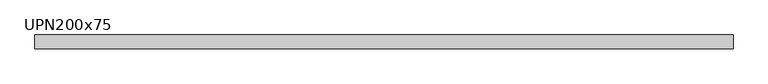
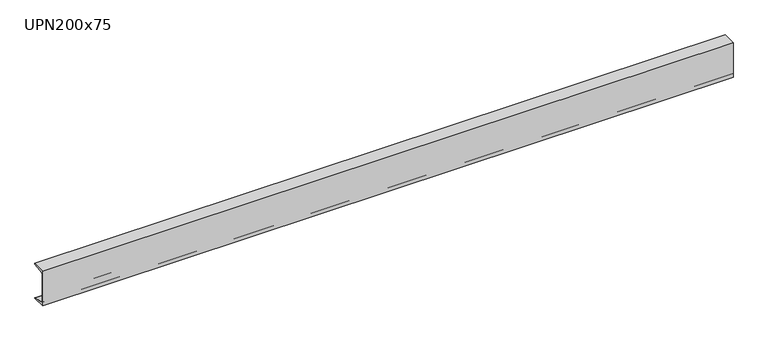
"""IFC4 building model written with IfcOpenShell, lengths in millimetres: beam geometry, M_MC Shapes : UPN200x75."""

from ifc_helpers import new_model, si_unit, point, frame, frame_2d, origin, place, context, project, spatial, polyline, circle_curve, trimmed, segment, composite_curve, outline, extrude, source, transform, mapped, element, save


def upn200x75_3677b2e3(model_context):
    return source(origin(), model_context, "Body", "SweptSolid", [
        extrude(outline(composite_curve([segment(polyline([(-10.9, 100.0), (64.1, 100.0), (64.1, 99.0253247)]), True, "CONTINUOUS"), segment(trimmed(circle_curve(frame_2d((60.15, 99.0253247)), 3.95), [point((64.1, 99.0253247))], [point((60.7993773, 95.1290689))], False, "CARTESIAN"), True, "CONTINUOUS"), segment(polyline([(60.7993773, 95.1290689), (0.2512455, 85.0376935)]), True, "CONTINUOUS"), segment(trimmed(circle_curve(frame_2d((1.55, 77.2451819)), 7.9), [point((0.2512455, 85.0376935))], [point((-6.35, 77.2451819))], True, "CARTESIAN"), True, "CONTINUOUS"), segment(polyline([(-6.35, 77.2451819), (-6.35, -77.2451819)]), True, "CONTINUOUS"), segment(trimmed(circle_curve(frame_2d((1.55, -77.2451819)), 7.9), [point((-6.35, -77.2451819))], [point((0.2512455, -85.0376935))], True, "CARTESIAN"), True, "CONTINUOUS"), segment(polyline([(0.2512455, -85.0376935), (60.7993773, -95.1290689)]), True, "CONTINUOUS"), segment(trimmed(circle_curve(frame_2d((60.15, -99.0253247)), 3.95), [point((60.7993773, -95.1290689))], [point((64.1, -99.0253247))], False, "CARTESIAN"), True, "CONTINUOUS"), segment(polyline([(64.1, -99.0253247), (64.1, -100.0), (-10.9, -100.0), (-10.9, 100.0)]), True, "CONTINUOUS")], self_intersect=False)), frame((-2123.9, 0.0, 0.0), z_axis=(1.0, 0.0, 0.0), x_axis=(0.0, 1.0, 0.0)), (0.0, 0.0, 1.0), 3774.5),
    ])


if __name__ == "__main__":
    model = new_model("IFC4")
    model_context = context("Model", 3, world=origin())
    ifc_project = project(units=[si_unit("LENGTHUNIT", "METRE", prefix="MILLI")], contexts=[model_context])
    site = spatial("IfcSite", under=ifc_project)
    building = spatial("IfcBuilding", under=site)
    placement = place(None, origin())
    upn200x75_shape = upn200x75_3677b2e3(model_context)
    element("IfcBeam", 1, ObjectType="M_MC Shapes : UPN200x75", at=placement, inside=building, context=model_context, shape_type="MappedRepresentation", body=[
        mapped(upn200x75_shape, transform((0.0, 0.0, 0.0), x_axis=(1.0, 0.0, 0.0), y_axis=(0.0, 1.0, 0.0), z_axis=(0.0, 0.0, 1.0))),
    ])
    save(model, "model.ifc")
